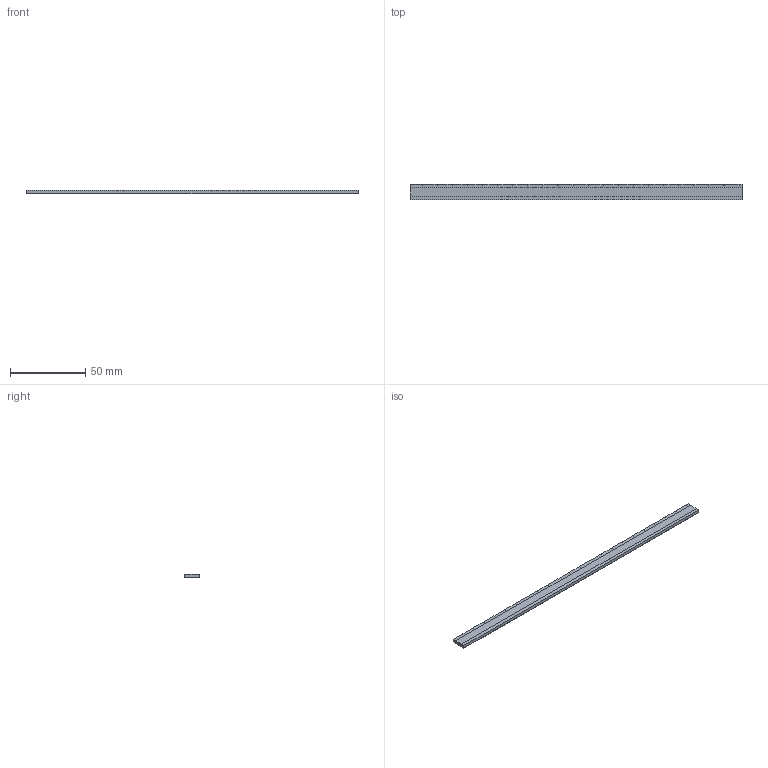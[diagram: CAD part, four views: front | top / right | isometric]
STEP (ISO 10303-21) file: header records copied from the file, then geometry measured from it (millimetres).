
FILE_DESCRIPTION (( 'STEP AP203' ), '1' );
FILE_NAME ('SA100-G0.STEP', '2024-08-29T02:09:55', ( '' ), ( '' ), 'SwSTEP 2.0', 'SolidWorks 2020', '' );
FILE_SCHEMA (( 'CONFIG_CONTROL_DESIGN' ));
Length unit declared in the file: millimetre
Products named in the file (1): SA100-G0
Bounding box: 220 x 10 x 2.64 mm (x, y, z)
Volume: 5660.2 mm3; surface area: 5612.3 mm2
Topology: 1 solids, 1 shells, 103 faces, 300 edges, 200 vertices
Faces by surface type: plane 103
Entity records: 3411 total; most frequent: CARTESIAN_POINT 604, ORIENTED_EDGE 600, DIRECTION 508, LINE 300, VECTOR 300, EDGE_CURVE 300, VERTEX_POINT 200, AXIS2_PLACEMENT_3D 104
